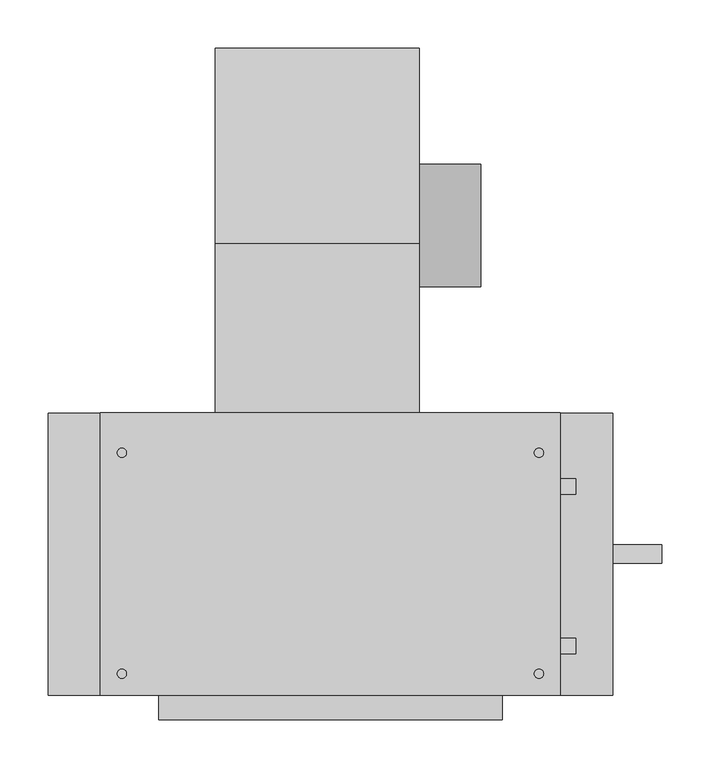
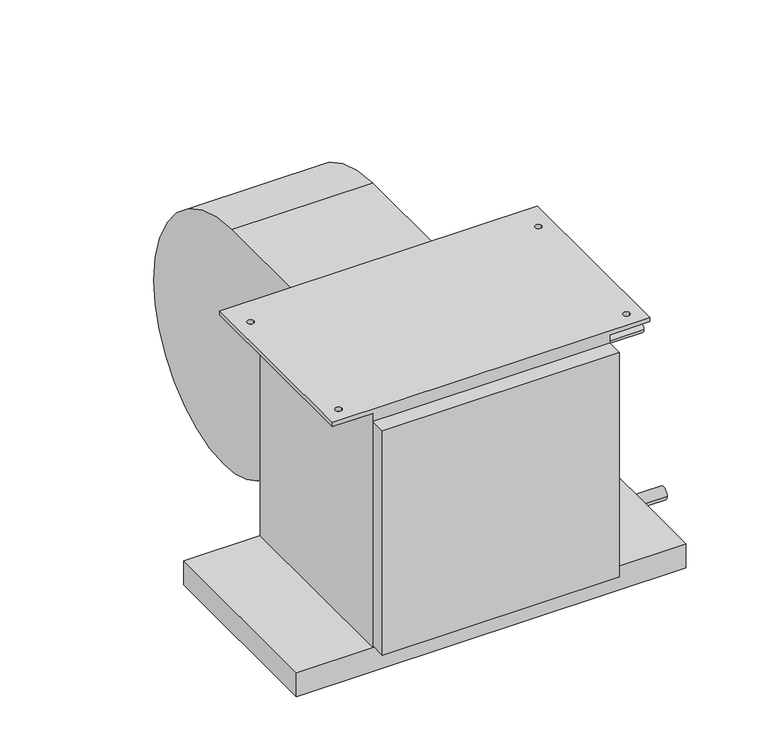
"""IFC4 building model written with IfcOpenShell, lengths in millimetres: proxy geometry, Concealed_High_Capacity_Horizontal_Fan_Coil_Unit_-_42DAA_-_CARRIER_-_2-Pipe_RH_2022 : Size 06 - 277v/60Hz/1Ph - 6 Row 4.0kW."""

from ifc_helpers import new_model, si_unit, point, frame, frame_2d, origin, place, context, project, spatial, polyline, circle_curve, trimmed, segment, composite_curve, outline, extrude, source, transform, mapped, element, save
from ifc_brep_helpers import plane_surface, cylinder_surface, revolved_surface, advanced_brep


def mechanical_equipment_2f8f14a6(model_context):
    return source(origin(), model_context, "Body", "SolidModel", [
        extrude(outline(composite_curve([segment(trimmed(circle_curve(frame_2d((102.0007598, -206.8897468)), 63.5), [point((165.5007598, -206.8897468))], [point((38.5007598, -206.8897468))], False, "CARTESIAN"), True, "CONTINUOUS"), segment(trimmed(circle_curve(frame_2d((102.0007598, -206.8897468)), 63.5), [point((38.5007598, -206.8897468))], [point((165.5007598, -206.8897468))], False, "CARTESIAN"), True, "CONTINUOUS")], self_intersect=False)), frame((244.475, 0.0, 0.0), z_axis=(1.0, 0.0, 0.0), x_axis=(0.0, 1.0, 0.0)), (0.0, 0.0, 1.0), 63.5),
        advanced_brep(
        [(33.401, 285.5155957, -222.029602), (33.401, 104.6226, -403.64664), (33.401, -50.9016, -277.10638), (33.401, -92.075, -277.10638), (33.401, -92.075, -19.05), (33.401, 83.0080093, -19.05), (244.475, 285.5155957, -222.029602), (244.475, 83.0080093, -19.05), (244.475, -92.075, -19.05), (244.475, -92.075, -277.10638), (244.475, -50.9016, -277.10638), (244.475, 104.622599, -403.6457839)],
        [
            (0, 1, circle_curve(frame((33.401, 104.44226, -222.57258), z_axis=(-1.0, 0.0, 0.0), x_axis=(0.0, -1.0, 0.0)), 181.0741498)),
            (1, 2, circle_curve(frame((33.401, 104.44226, -245.02364), z_axis=(-1.0, 0.0, 0.0), x_axis=(0.0, -1.0, 0.0)), 158.6222464)),
            (2, 3),
            (3, 4),
            (4, 5),
            (5, 0, circle_curve(frame((33.401, 81.9912, -222.57258), z_axis=(-1.0, 0.0, 0.0), x_axis=(0.0, -1.0, 0.0)), 203.52512)),
            (6, 7, circle_curve(frame((244.475, 81.9912, -222.57258), z_axis=(1.0, 0.0, 0.0), x_axis=(0.0, -1.0, 0.0)), 203.52512)),
            (7, 8),
            (8, 9),
            (9, 10),
            (10, 11, circle_curve(frame((244.475, 104.44226, -245.02364), z_axis=(1.0, 0.0, 0.0), x_axis=(0.0, -1.0, 0.0)), 158.6222464)),
            (11, 6, circle_curve(frame((244.475, 104.44226, -222.57258), z_axis=(1.0, 0.0, 0.0), x_axis=(0.0, -1.0, 0.0)), 181.0741498)),
            (0, 6),
            (11, 1),
            (10, 2),
            (9, 3),
            (8, 4),
            (7, 5),
        ],
        [
            plane_surface(frame((33.401, -76.6318898, -222.57258), z_axis=(-1.0, 0.0, 0.0), x_axis=(0.0, 0.0, 1.0))),
            plane_surface(frame((244.475, -76.6318898, -222.57258), z_axis=(1.0, 0.0, 0.0), x_axis=(0.0, 0.0, -1.0))),
            cylinder_surface(frame((244.475, 104.44226, -222.57258), z_axis=(-1.0, 0.0, 0.0), x_axis=(0.0, -1.0, 0.0)), 181.0741498),
            cylinder_surface(frame((244.475, 104.44226, -245.02364), z_axis=(-1.0, 0.0, 0.0), x_axis=(0.0, -1.0, 0.0)), 158.6222464),
            plane_surface(frame((33.401, -50.9016, -277.10638), z_axis=(0.0, 0.0, -1.0), x_axis=(1.0, 0.0, 0.0))),
            plane_surface(frame((33.401, -92.075, -277.10638), z_axis=(0.0, -1.0, 0.0), x_axis=(1.0, 0.0, 0.0))),
            plane_surface(frame((33.401, -92.075, -19.05), z_axis=(0.0, 0.0, 1.0), x_axis=(1.0, 0.0, 0.0))),
            cylinder_surface(frame((244.475, 81.9912, -222.57258), z_axis=(-1.0, 0.0, 0.0), x_axis=(0.0, -1.0, 0.0)), 203.52512),
        ],
        [
            (0, [[1, 2, 3, 4, 5, 6]]),
            (1, [[7, 8, 9, 10, 11, 12]]),
            (2, [[-1, 13, -12, 14]]),
            (3, [[-2, -14, -11, 15]]),
            (4, [[-3, -15, -10, 16]]),
            (5, [[-4, -16, -9, 17]]),
            (6, [[-5, -17, -8, 18]]),
            (7, [[-6, -18, -7, -13]]),
        ],
    ),
        advanced_brep(
        [(390.525, -92.075, -6.35), (390.525, -384.175, -6.35), (330.2, -384.175, -6.35), (330.2, -92.075, -6.35), (363.5375, -133.35, -6.35), (373.0625, -133.35, -6.35), (363.5375, -361.95, -6.35), (373.0625, -361.95, -6.35), (-85.725, -92.075, -6.35), (-25.4, -92.075, -6.35), (-25.4, -384.175, -6.35), (-85.725, -384.175, -6.35), (-68.2625, -133.35, -6.35), (-58.7375, -133.35, -6.35), (-68.2625, -361.95, -6.35), (-58.7375, -361.95, -6.35), (390.525, -384.175, 0.0), (390.525, -92.075, 0.0), (-85.725, -92.075, 0.0), (-85.725, -384.175, 0.0), (-58.7375, -133.35, 0.0), (-68.2625, -133.35, 0.0), (-58.7375, -361.95, 0.0), (-68.2625, -361.95, 0.0), (373.0625, -133.35, 0.0), (363.5375, -133.35, 0.0), (373.0625, -361.95, 0.0), (363.5375, -361.95, 0.0), (330.2, -92.075, -377.825), (-25.4, -92.075, -377.825), (-25.4, -384.175, -377.825), (330.2, -384.175, -377.825)],
        [
            (0, 1),
            (1, 2),
            (2, 3),
            (3, 0),
            (4, 5, circle_curve(frame((368.3, -133.35, -6.35), z_axis=(0.0, 0.0, 1.0), x_axis=(1.0, 0.0, 0.0)), 4.7625)),
            (5, 4, circle_curve(frame((368.3, -133.35, -6.35), z_axis=(0.0, 0.0, 1.0), x_axis=(1.0, 0.0, 0.0)), 4.7625)),
            (6, 7, circle_curve(frame((368.3, -361.95, -6.35), z_axis=(0.0, 0.0, 1.0), x_axis=(1.0, 0.0, 0.0)), 4.7625)),
            (7, 6, circle_curve(frame((368.3, -361.95, -6.35), z_axis=(0.0, 0.0, 1.0), x_axis=(1.0, 0.0, 0.0)), 4.7625)),
            (8, 9),
            (9, 10),
            (10, 11),
            (11, 8),
            (12, 13, circle_curve(frame((-63.5, -133.35, -6.35), z_axis=(0.0, 0.0, 1.0), x_axis=(1.0, 0.0, 0.0)), 4.7625)),
            (13, 12, circle_curve(frame((-63.5, -133.35, -6.35), z_axis=(0.0, 0.0, 1.0), x_axis=(1.0, 0.0, 0.0)), 4.7625)),
            (14, 15, circle_curve(frame((-63.5, -361.95, -6.35), z_axis=(0.0, 0.0, 1.0), x_axis=(1.0, 0.0, 0.0)), 4.7625)),
            (15, 14, circle_curve(frame((-63.5, -361.95, -6.35), z_axis=(0.0, 0.0, 1.0), x_axis=(1.0, 0.0, 0.0)), 4.7625)),
            (16, 17),
            (17, 18),
            (18, 19),
            (19, 16),
            (20, 21, circle_curve(frame((-63.5, -133.35, 0.0), z_axis=(0.0, 0.0, -1.0), x_axis=(1.0, 0.0, 0.0)), 4.7625)),
            (21, 20, circle_curve(frame((-63.5, -133.35, 0.0), z_axis=(0.0, 0.0, -1.0), x_axis=(1.0, 0.0, 0.0)), 4.7625)),
            (22, 23, circle_curve(frame((-63.5, -361.95, 0.0), z_axis=(0.0, 0.0, -1.0), x_axis=(1.0, 0.0, 0.0)), 4.7625)),
            (23, 22, circle_curve(frame((-63.5, -361.95, 0.0), z_axis=(0.0, 0.0, -1.0), x_axis=(1.0, 0.0, 0.0)), 4.7625)),
            (24, 25, circle_curve(frame((368.3, -133.35, 0.0), z_axis=(0.0, 0.0, -1.0), x_axis=(1.0, 0.0, 0.0)), 4.7625)),
            (25, 24, circle_curve(frame((368.3, -133.35, 0.0), z_axis=(0.0, 0.0, -1.0), x_axis=(1.0, 0.0, 0.0)), 4.7625)),
            (26, 27, circle_curve(frame((368.3, -361.95, 0.0), z_axis=(0.0, 0.0, -1.0), x_axis=(1.0, 0.0, 0.0)), 4.7625)),
            (27, 26, circle_curve(frame((368.3, -361.95, 0.0), z_axis=(0.0, 0.0, -1.0), x_axis=(1.0, 0.0, 0.0)), 4.7625)),
            (3, 28),
            (28, 29),
            (29, 9),
            (8, 18),
            (17, 0),
            (1, 16),
            (19, 11),
            (10, 30),
            (30, 31),
            (31, 2),
            (28, 31),
            (30, 29),
            (20, 13),
            (12, 21),
            (22, 15),
            (14, 23),
            (24, 5),
            (4, 25),
            (26, 7),
            (6, 27),
        ],
        [
            plane_surface(frame((330.2, -92.075, -6.35), z_axis=(0.0, 0.0, -1.0), x_axis=(1.0, 0.0, 0.0))),
            plane_surface(frame((330.2, -92.075, 0.0), z_axis=(0.0, 0.0, 1.0), x_axis=(-1.0, 0.0, 0.0))),
            plane_surface(frame((390.525, -92.075, 0.0), z_axis=(0.0, 1.0, 0.0), x_axis=(0.0, 0.0, -1.0))),
            plane_surface(frame((330.2, -384.175, 0.0), z_axis=(0.0, -1.0, 0.0), x_axis=(0.0, 0.0, -1.0))),
            plane_surface(frame((390.525, -384.175, 0.0), z_axis=(1.0, 0.0, 0.0), x_axis=(0.0, 0.0, -1.0))),
            plane_surface(frame((-85.725, -92.075, 0.0), z_axis=(-1.0, 0.0, 0.0), x_axis=(0.0, 0.0, -1.0))),
            plane_surface(frame((-25.4, -92.075, -377.825), z_axis=(0.0, 0.0, -1.0), x_axis=(1.0, 0.0, 0.0))),
            plane_surface(frame((-25.4, -92.075, 0.0), z_axis=(-1.0, 0.0, 0.0), x_axis=(0.0, 0.0, -1.0))),
            plane_surface(frame((330.2, -384.175, 0.0), z_axis=(1.0, 0.0, 0.0), x_axis=(0.0, 0.0, -1.0))),
            revolved_surface(polyline([(-58.7375, -133.35, 0.0), (-58.7375, -133.35, -6.35)]), (-63.5, -133.35, -6.35), (0.0, 0.0, 1.0)),
            revolved_surface(polyline([(-58.7375, -361.95, 0.0), (-58.7375, -361.95, -6.35)]), (-63.5, -361.95, 0.0), (0.0, 0.0, 1.0)),
            revolved_surface(polyline([(373.0625, -133.35, 0.0), (373.0625, -133.35, -6.35)]), (368.3, -133.35, 0.0), (0.0, 0.0, 1.0)),
            revolved_surface(polyline([(373.0625, -361.95, 0.0), (373.0625, -361.95, -6.35)]), (368.3, -361.95, 0.0), (0.0, 0.0, 1.0)),
        ],
        [
            (0, [[1, 2, 3, 4], [5, 6], [7, 8]]),
            (0, [[9, 10, 11, 12], [13, 14], [15, 16]]),
            (1, [[17, 18, 19, 20], [21, 22], [23, 24], [25, 26], [27, 28]]),
            (2, [[-4, 29, 30, 31, -9, 32, -18, 33]]),
            (3, [[-2, 34, -20, 35, -11, 36, 37, 38]]),
            (4, [[-1, -33, -17, -34]]),
            (5, [[-12, -35, -19, -32]]),
            (6, [[39, -37, 40, -30]]),
            (7, [[-40, -36, -10, -31]]),
            (8, [[-39, -29, -3, -38]]),
            (9, [[41, -13, 42, -21]]),
            (9, [[-41, -22, -42, -14]]),
            (10, [[43, -15, 44, -23]]),
            (10, [[-43, -24, -44, -16]]),
            (11, [[45, -5, 46, -25]]),
            (11, [[-45, -26, -46, -6]]),
            (12, [[47, -7, 48, -27]]),
            (12, [[-47, -28, -48, -8]]),
        ],
    ),
        extrude(outline(composite_curve([segment(trimmed(circle_curve(frame_2d((-238.125, -403.225)), 9.525), [point((-228.6, -403.225))], [point((-247.65, -403.225))], False, "CARTESIAN"), True, "CONTINUOUS"), segment(trimmed(circle_curve(frame_2d((-238.125, -403.225)), 9.525), [point((-247.65, -403.225))], [point((-228.6, -403.225))], False, "CARTESIAN"), True, "CONTINUOUS")], self_intersect=False)), frame((444.5, 0.0, 0.0), z_axis=(1.0, 0.0, 0.0), x_axis=(0.0, 1.0, 0.0)), (0.0, 0.0, 1.0), 50.8),
        extrude(outline(composite_curve([segment(trimmed(circle_curve(frame_2d((-333.375, -50.8)), 7.9375), [point((-325.4375, -50.8))], [point((-341.3125, -50.8))], False, "CARTESIAN"), True, "CONTINUOUS"), segment(trimmed(circle_curve(frame_2d((-333.375, -50.8)), 7.9375), [point((-341.3125, -50.8))], [point((-325.4375, -50.8))], False, "CARTESIAN"), True, "CONTINUOUS")], self_intersect=False)), frame((330.2, 0.0, 0.0), z_axis=(1.0, 0.0, 0.0), x_axis=(0.0, 1.0, 0.0)), (0.0, 0.0, 1.0), 76.2),
        extrude(outline(composite_curve([segment(trimmed(circle_curve(frame_2d((-168.275, -327.025)), 7.9375), [point((-160.3375, -327.025))], [point((-176.2125, -327.025))], False, "CARTESIAN"), True, "CONTINUOUS"), segment(trimmed(circle_curve(frame_2d((-168.275, -327.025)), 7.9375), [point((-176.2125, -327.025))], [point((-160.3375, -327.025))], False, "CARTESIAN"), True, "CONTINUOUS")], self_intersect=False)), frame((330.2, 0.0, 0.0), z_axis=(1.0, 0.0, 0.0), x_axis=(0.0, 1.0, 0.0)), (0.0, 0.0, 1.0), 76.2),
        extrude(outline(polyline([(330.2, -409.575), (-25.4, -409.575), (-25.4, -384.175), (330.2, -384.175), (330.2, -409.575)])), frame((0.0, 0.0, -374.65), z_axis=(0.0, 0.0, 1.0), x_axis=(1.0, 0.0, 0.0)), (0.0, 0.0, 1.0), 355.6),
        extrude(outline(polyline([(444.5, -92.075), (444.5, -384.175), (-139.7, -384.175), (-139.7, -92.075), (444.5, -92.075)])), frame((0.0, 0.0, -415.925), z_axis=(0.0, 0.0, 1.0), x_axis=(1.0, 0.0, 0.0)), (0.0, 0.0, 1.0), 38.1),
    ])


if __name__ == "__main__":
    model = new_model("IFC4")
    model_context = context("Model", 3, world=origin())
    ifc_project = project(units=[si_unit("LENGTHUNIT", "METRE", prefix="MILLI")], contexts=[model_context])
    site = spatial("IfcSite", under=ifc_project)
    building = spatial("IfcBuilding", under=site)
    placement = place(None, origin())
    mechanical_equipment_shape = mechanical_equipment_2f8f14a6(model_context)
    element("IfcBuildingElementProxy", 1, Name="Concealed_High_Capacity_Horizontal_Fan_Coil_Unit_-_42DAA_-_CARRIER_-_2-Pipe_RH_2022 : Size 06 - 277v/60Hz/1Ph - 6 Row 4.0kW", ObjectType="Concealed_High_Capacity_Horizontal_Fan_Coil_Unit_-_42DAA_-_CARRIER_-_2-Pipe_RH_2022 : Size 06 - 277v/60Hz/1Ph - 6 Row 4.0kW", at=placement, inside=building, context=model_context, shape_type="MappedRepresentation", body=[
        mapped(mechanical_equipment_shape, transform((0.0, 0.0, 0.0), x_axis=(1.0, 0.0, 0.0), y_axis=(0.0, 1.0, 0.0), z_axis=(0.0, 0.0, 1.0))),
    ])
    save(model, "model.ifc")
